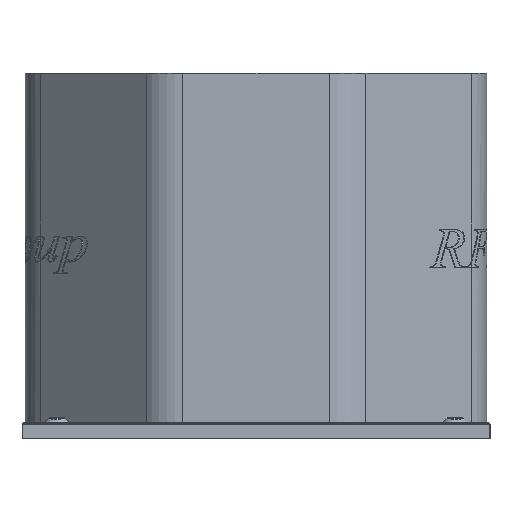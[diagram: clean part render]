
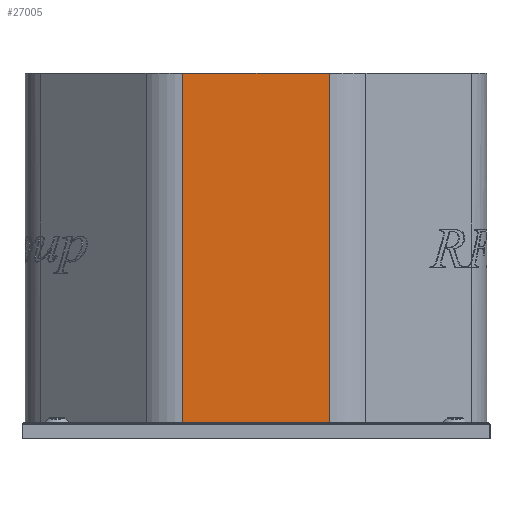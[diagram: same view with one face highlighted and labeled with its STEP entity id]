
A CAD part, front view. The second image highlights one B-rep face of the part: STEP entity #27005.
In plain terms, the highlighted planar face has unit normal (0, -1, 0).
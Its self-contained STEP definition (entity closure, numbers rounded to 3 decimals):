
#2929=FACE_OUTER_BOUND('',#4399,.T.);
#4399=EDGE_LOOP('',(#23411,#23412,#23413,#23414));
#6968=LINE('',#48136,#9371);
#6969=LINE('',#48140,#9372);
#6970=LINE('',#48142,#9373);
#6971=LINE('',#48143,#9374);
#9371=VECTOR('',#34548,10.);
#9372=VECTOR('',#34553,10.);
#9373=VECTOR('',#34554,10.);
#9374=VECTOR('',#34555,10.);
#12546=VERTEX_POINT('',#48133);
#12547=VERTEX_POINT('',#48135);
#12548=VERTEX_POINT('',#48139);
#12549=VERTEX_POINT('',#48141);
#16352=EDGE_CURVE('',#12547,#12546,#6968,.T.);
#16354=EDGE_CURVE('',#12548,#12546,#6969,.T.);
#16355=EDGE_CURVE('',#12549,#12548,#6970,.T.);
#16356=EDGE_CURVE('',#12549,#12547,#6971,.T.);
#23411=ORIENTED_EDGE('',*,*,#16354,.F.);
#23412=ORIENTED_EDGE('',*,*,#16355,.F.);
#23413=ORIENTED_EDGE('',*,*,#16356,.T.);
#23414=ORIENTED_EDGE('',*,*,#16352,.T.);
#25102=PLANE('',#28764);
#27005=ADVANCED_FACE('',(#2929),#25102,.T.);
#28764=AXIS2_PLACEMENT_3D('',#48138,#34551,#34552);
#34548=DIRECTION('',(0.,0.,-1.));
#34551=DIRECTION('center_axis',(0.,-1.,0.));
#34552=DIRECTION('ref_axis',(-1.,0.,0.));
#34553=DIRECTION('',(-1.,0.,0.));
#34554=DIRECTION('',(0.,0.,-1.));
#34555=DIRECTION('',(-1.,0.,0.));
#48133=CARTESIAN_POINT('',(425.535,185.158,317.317));
#48135=CARTESIAN_POINT('',(425.535,185.158,870.317));
#48136=CARTESIAN_POINT('',(425.535,185.158,870.317));
#48138=CARTESIAN_POINT('Origin',(657.417,185.158,870.317));
#48139=CARTESIAN_POINT('',(657.417,185.158,317.317));
#48140=CARTESIAN_POINT('',(599.447,185.158,317.317));
#48141=CARTESIAN_POINT('',(657.417,185.158,870.317));
#48142=CARTESIAN_POINT('',(657.417,185.158,870.317));
#48143=CARTESIAN_POINT('',(657.417,185.158,870.317));
